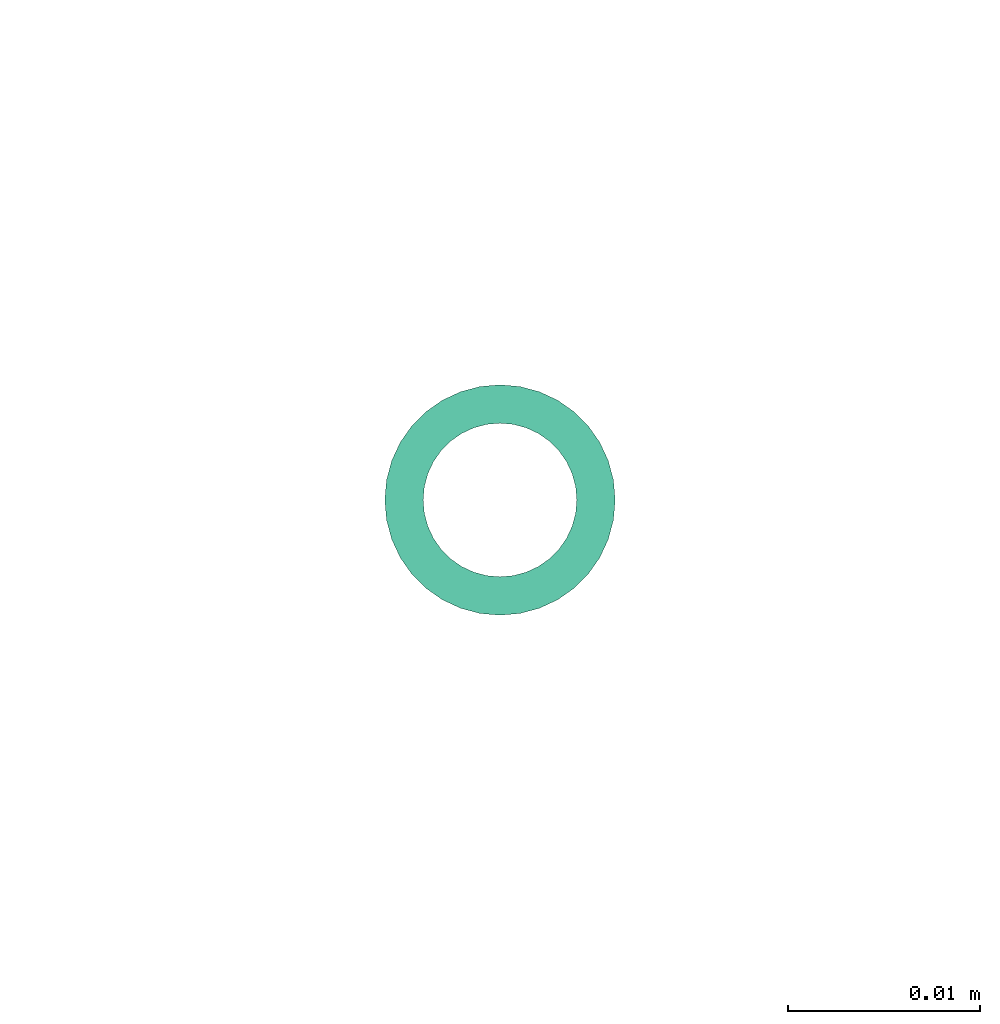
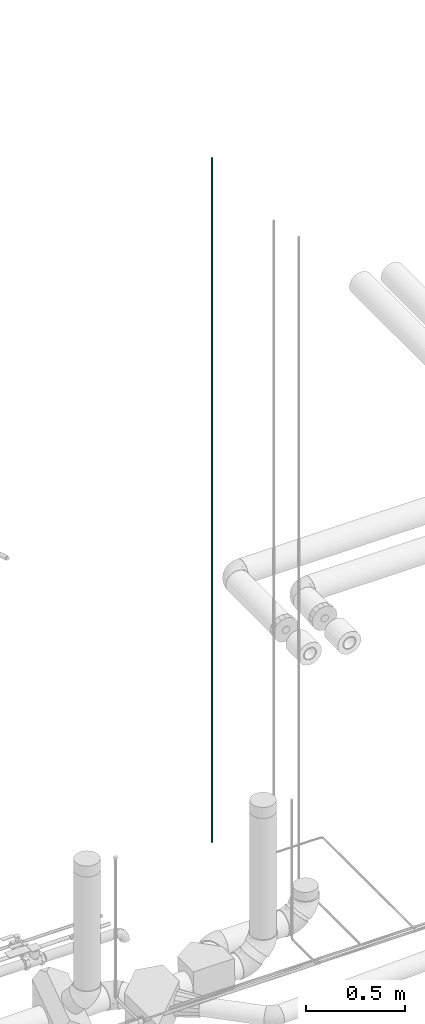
# One storey, part 108 of 156: 1 flow segment.
"""IFC2X3 building model written with IfcOpenShell, lengths in millimetres."""

import ifcopenshell
import ifcopenshell.guid

model = None  # the IFC model being written
_history = None  # IfcOwnerHistory: only IFC2X3 demands one
_inside = {}  # id of a spatial element -> (the spatial element, [elements in it])
_under = {}  # id of a project, library or spatial element -> (it, [spatial elements below it])
_declared = {}  # id of a project -> (the project, [libraries it declares])
_typed = {}  # id of a type object -> (the type object, [elements of that type])
_made_of = {}  # id of a material, layer set ... -> (it, [elements and type objects made of it])


def new_model(schema):
    """Start an empty IFC model of exactly this schema.

    Asked for "IFC4X3", IfcOpenShell would pick the latest addendum, in which some entities
    have other attributes; the version numbers below select the first issue.
    IFC2X3 requires an IfcOwnerHistory on every rooted entity: one is made here for all.
    """
    global model, _history
    if schema == "IFC4X3":
        model = ifcopenshell.file(schema_version=(4, 3, 0, 0))
    else:
        model = ifcopenshell.file(schema=schema)
    _inside.clear()
    _under.clear()
    _declared.clear()
    _typed.clear()
    _made_of.clear()
    _history = None
    if model.schema == "IFC2X3":
        org = make("IfcOrganization", Name="unknown")
        user = make(
            "IfcPersonAndOrganization",
            ThePerson=make("IfcPerson", FamilyName="unknown"),
            TheOrganization=org,
        )
        app = make(
            "IfcApplication",
            ApplicationDeveloper=org,
            Version="unknown",
            ApplicationFullName="unknown",
            ApplicationIdentifier="unknown",
        )
        _history = make(
            "IfcOwnerHistory",
            OwningUser=user,
            OwningApplication=app,
            ChangeAction="ADDED",
            CreationDate=0,
        )
    return model


def make(cls, **values):
    """One entity of the class cls with the attributes given. An attribute that is None is left unset."""
    return model.create_entity(
        cls, **{name: value for name, value in values.items() if value is not None}
    )


def entity(cls, *values):
    """Any entity or typed value of the class cls, its attributes in the order of the schema. None: left unset."""
    e = model.create_entity(cls)
    for i, value in enumerate(values):
        if value is not None:
            e[i] = value
    return e


def rooted(cls, **values):
    """An entity with a GlobalId (a new one), such as an element, a storey or a relation."""
    return make(cls, GlobalId=ifcopenshell.guid.new(), OwnerHistory=_history, **values)


def si_unit(unit_type, name, prefix=None):
    """IfcSIUnit, for example si_unit("LENGTHUNIT", "METRE", prefix="MILLI")."""
    return make("IfcSIUnit", UnitType=unit_type, Prefix=prefix, Name=name)


def converted_unit(unit_type, name, factor, base, dimensions=None, offset=None):
    """IfcConversionBasedUnit, such as the inch: factor (a typed value) times the base unit."""
    return make(
        "IfcConversionBasedUnit"
        if offset is None
        else "IfcConversionBasedUnitWithOffset",
        ConversionOffset=offset,
        Dimensions=None
        if dimensions is None
        else entity("IfcDimensionalExponents", *dimensions),
        UnitType=unit_type,
        Name=name,
        ConversionFactor=make(
            "IfcMeasureWithUnit", ValueComponent=factor, UnitComponent=base
        ),
    )


def derived_unit(unit_type, elements):
    """IfcDerivedUnit: a product of units, each with its exponent."""
    return make(
        "IfcDerivedUnit",
        Elements=[
            make("IfcDerivedUnitElement", Unit=unit, Exponent=power)
            for unit, power in elements
        ],
        UnitType=unit_type,
    )


def assignment(units):
    """IfcUnitAssignment: the units of a project."""
    return None if units is None else make("IfcUnitAssignment", Units=units)


def point(xyz):
    """IfcCartesianPoint."""
    return None if xyz is None else make("IfcCartesianPoint", Coordinates=xyz)


def direction(xyz):
    """IfcDirection."""
    return None if xyz is None else make("IfcDirection", DirectionRatios=xyz)


def frame(location, z_axis=None, x_axis=None):
    """IfcAxis2Placement3D, a coordinate frame: its origin and axes. An axis left out is left unset."""
    return make(
        "IfcAxis2Placement3D",
        Location=point(location),
        Axis=direction(z_axis),
        RefDirection=direction(x_axis),
    )


def place(relative_to, where):
    """IfcLocalPlacement: puts the frame where relative to a parent placement (None: the world)."""
    return make(
        "IfcLocalPlacement", PlacementRelTo=relative_to, RelativePlacement=where
    )


def context(
    kind, dimensions, precision=None, world=None, true_north=None, identifier=None
):
    """IfcGeometricRepresentationContext, for example the 3D "Model" context."""
    return make(
        "IfcGeometricRepresentationContext",
        ContextIdentifier=identifier,
        ContextType=kind,
        CoordinateSpaceDimension=dimensions,
        Precision=precision,
        WorldCoordinateSystem=world,
        TrueNorth=true_north,
    )


def subcontext(parent, identifier, kind, view, scale=None):
    """IfcGeometricRepresentationSubContext, for example "Body" below "Model"."""
    return make(
        "IfcGeometricRepresentationSubContext",
        ContextIdentifier=identifier,
        ContextType=kind,
        ParentContext=parent,
        TargetScale=scale,
        TargetView=view,
    )


def project(units=None, contexts=None):
    """IfcProject with its units and contexts."""
    return rooted(
        "IfcProject",
        Name="project",
        RepresentationContexts=contexts,
        UnitsInContext=assignment(units),
    )


def spatial(cls, under=None, at=None, **own):
    """A site, building, storey or space (cls), placed at a placement, below another one or the project."""
    s = rooted(cls, ObjectPlacement=at, **own)
    if under is not None:
        _under.setdefault(under.id(), (under, []))[1].append(s)
    return s


def faces_of(points, faces, orient=None, outer=None):
    """IfcFace entities. A face is a list of loops; a loop is a list of indices into points, from 0.

    orient and outer hold one flag for each loop. By default every Orientation is true, the
    first loop of a face is its IfcFaceOuterBound and the others are IfcFaceBound.
    """
    made = []
    for i, loops in enumerate(faces):
        bounds = []
        for j, loop in enumerate(loops):
            is_outer = j == 0 if outer is None else outer[i][j]
            bounds.append(
                make(
                    "IfcFaceOuterBound" if is_outer else "IfcFaceBound",
                    Bound=make("IfcPolyLoop", Polygon=[points[k] for k in loop]),
                    Orientation=True if orient is None else orient[i][j],
                )
            )
        made.append(make("IfcFace", Bounds=bounds))
    return made


def faceted_brep(points, faces, orient=None, outer=None, voids=None):
    """IfcFacetedBrep: a solid bounded by flat faces; with voids (closed shells), ...WithVoids."""
    shared = [point(p) for p in points]
    hull = make("IfcClosedShell", CfsFaces=faces_of(shared, faces, orient, outer))
    if voids is None:
        return make("IfcFacetedBrep", Outer=hull)
    return make(
        "IfcFacetedBrepWithVoids",
        Outer=hull,
        Voids=[
            make(cls, CfsFaces=faces_of(shared, fs, o, b)) for cls, fs, o, b in voids
        ],
    )


def shape(context_of_items, identifier, shape_type, items):
    """IfcShapeRepresentation: the items that make up one representation, for example the "Body"."""
    return make(
        "IfcShapeRepresentation",
        ContextOfItems=context_of_items,
        RepresentationIdentifier=identifier,
        RepresentationType=shape_type,
        Items=items,
    )


def made_of(thing, what):
    """Note that an element or type object is made of a material, layer set ...; save() writes the relation."""
    if what is not None:
        _made_of.setdefault(what.id(), (what, []))[1].append(thing)
    return thing


def type_object(cls, material=None, **own):
    """A type object (cls), such as IfcWallType, which elements share."""
    return made_of(rooted(cls, **own), material)


def element(
    cls,
    number,
    at=None,
    inside=None,
    cuts=None,
    type_object=None,
    material=None,
    context=None,
    identifier="Body",
    shape_type=None,
    held_by="IfcProductDefinitionShape",
    body=None,
    shapes=None,
    **own,
):
    """One element of the class cls, such as IfcWall. Its Tag is "e" and its number.

    at: its placement. inside: the storey or other place that contains it. cuts: it is an
    opening in that element (IfcRelVoidsElement). A single representation is given by context,
    identifier, shape_type and body (its items); several are given by shapes. held_by: the class
    of the entity that holds the representations. save() writes the other relations.
    """
    e = rooted(cls, Tag="e%d" % number, ObjectPlacement=at, **own)
    if body is not None:
        shapes = [shape(context, identifier, shape_type, body)]
    if shapes is not None:
        e.Representation = make(held_by, Representations=shapes)
    if inside is not None:
        _inside.setdefault(inside.id(), (inside, []))[1].append(e)
    if cuts is not None:
        rooted(
            "IfcRelVoidsElement", RelatingBuildingElement=cuts, RelatedOpeningElement=e
        )
    if type_object is not None:
        _typed.setdefault(type_object.id(), (type_object, []))[1].append(e)
    return made_of(e, material)


def aggregate(whole, parts):
    """IfcRelAggregates: a whole, such as a stair, and the parts it consists of."""
    return rooted("IfcRelAggregates", RelatingObject=whole, RelatedObjects=parts)


def save(model, path):
    """Write the relations noted so far, then the file.

    IfcRelAggregates (storeys below a building ...), IfcRelContainedInSpatialStructure (elements
    in a storey), IfcRelDefinesByType, IfcRelAssociatesMaterial and IfcRelDeclares: one each for
    every whole, place, type object, material and project.
    """
    for whole, parts in _under.values():
        aggregate(whole, parts)
    for where, things in _inside.values():
        rooted(
            "IfcRelContainedInSpatialStructure",
            RelatedElements=things,
            RelatingStructure=where,
        )
    for kind, things in _typed.values():
        rooted("IfcRelDefinesByType", RelatedObjects=things, RelatingType=kind)
    for what, things in _made_of.values():
        rooted("IfcRelAssociatesMaterial", RelatedObjects=things, RelatingMaterial=what)
    for by, libraries in _declared.values():
        rooted("IfcRelDeclares", RelatingContext=by, RelatedDefinitions=libraries)
    model.write(path)


model = new_model("IFC2X3")

# Units and contexts
model_context = context("Model", 3, precision=0.01, world=frame((0.0, 4.29681676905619e-09, 0.0)), true_north=direction((4.01073788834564e-13, 1.0)))
plan_context = context("Plan", 3, precision=0.01, world=frame((0.0, 4.29681676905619e-09, 0.0)), true_north=direction((4.01073788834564e-13, 1.0)))
body_context = subcontext(model_context, "Body", "Model", "MODEL_VIEW")
ifc_project = project(units=[converted_unit("PLANEANGLEUNIT", "DEGREE", entity("IfcPositiveLengthMeasure", 0.0174532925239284), si_unit("PLANEANGLEUNIT", "RADIAN"), dimensions=[0, 0, 0, 0, 0, 0, 0]), si_unit("AREAUNIT", "SQUARE_METRE"), si_unit("LENGTHUNIT", "METRE", prefix="MILLI"), si_unit("MASSUNIT", "GRAM", prefix="KILO"), si_unit("POWERUNIT", "WATT"), si_unit("PRESSUREUNIT", "PASCAL", prefix="KILO"), si_unit("FORCEUNIT", "NEWTON", prefix="KILO"), si_unit("ELECTRICVOLTAGEUNIT", "VOLT"), si_unit("ELECTRICCURRENTUNIT", "AMPERE"), si_unit("THERMODYNAMICTEMPERATUREUNIT", "DEGREE_CELSIUS"), si_unit("TIMEUNIT", "SECOND"), si_unit("VOLUMEUNIT", "CUBIC_METRE"), derived_unit("LINEARVELOCITYUNIT", [(si_unit("LENGTHUNIT", "METRE"), 1), (si_unit("TIMEUNIT", "SECOND"), -1)]), derived_unit("VOLUMETRICFLOWRATEUNIT", [(si_unit("VOLUMEUNIT", "CUBIC_METRE"), 1), (si_unit("TIMEUNIT", "SECOND"), -1)]), derived_unit("THERMALTRANSMITTANCEUNIT", [(si_unit("POWERUNIT", "WATT"), 1), (si_unit("THERMODYNAMICTEMPERATUREUNIT", "KELVIN"), -1), (si_unit("AREAUNIT", "SQUARE_METRE"), -1)]), derived_unit("SOUNDPRESSUREUNIT", [(si_unit("PRESSUREUNIT", "PASCAL"), 1)])], contexts=[model_context, plan_context])

# Site, building, storey
site_placement = place(None, frame((0.0, -4.29681676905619e-09, 0.0), z_axis=(0.0, 0.0, 1.0), x_axis=(1.0, 0.0, 0.0)))
site = spatial("IfcSite", under=ifc_project, at=site_placement, CompositionType="ELEMENT")
building_placement = place(site_placement, frame((0.0, 4.29681676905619e-09, 0.0), z_axis=(0.0, 0.0, 1.0), x_axis=(1.0, 0.0, 0.0)))
building = spatial("IfcBuilding", under=site, at=building_placement, Name="mc-building", CompositionType="ELEMENT")
storey_placement = place(building_placement, frame((0.0, 0.0, 205200.0), z_axis=(0.0, 0.0, 1.0), x_axis=(1.0, 0.0, 0.0)))
storey = spatial("IfcBuildingStorey", under=building, at=storey_placement, Name="Nivå D + 1,2 m", CompositionType="ELEMENT", Elevation=205200.0)

# Flow segment
pipe_segment_type = type_object("IfcPipeSegmentType", Name="Kobberrør", PredefinedType="RIGIDSEGMENT")
flow_segment_placement = place(storey_placement, frame((328985.66139, 463895.8486, 2912.0), z_axis=(1.0, 0.0, 0.0), x_axis=(0.0, 0.0, 1.0)))
element("IfcFlowSegment", 1, at=flow_segment_placement, inside=storey, type_object=pipe_segment_type, Name="Kobberrør", context=body_context, shape_type="Brep", body=[
    faceted_brep([(1088.0, 3.93923101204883, -0.694592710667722), (1088.0, 4.0, 0.0), (5309.6, 4.0, 0.0), (5309.6, 3.93923101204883, -0.694592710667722), (1088.0, 3.75877048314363, -1.36808057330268), (5309.6, 3.75877048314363, -1.36808057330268), (1088.0, 3.46410161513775, -2.0), (5309.6, 3.46410161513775, -2.0), (1088.0, 3.06417777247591, -2.57115043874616), (5309.6, 3.06417777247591, -2.57115043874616), (1088.0, 2.57115043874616, -3.06417777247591), (5309.6, 2.57115043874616, -3.06417777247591), (1088.0, 2.0, -3.46410161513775), (5309.6, 2.0, -3.46410161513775), (1088.0, 1.36808057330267, -3.75877048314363), (5309.6, 1.36808057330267, -3.75877048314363), (1088.0, 0.69459271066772, -3.93923101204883), (5309.6, 0.69459271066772, -3.93923101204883), (1088.0, -7.34788079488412e-16, -4.0), (5309.6, -7.34788079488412e-16, -4.0), (1088.0, -0.694592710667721, -3.93923101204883), (5309.6, -0.694592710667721, -3.93923101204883), (1088.0, -1.36808057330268, -3.75877048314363), (5309.6, -1.36808057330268, -3.75877048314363), (1088.0, -2.0, -3.46410161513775), (5309.6, -2.0, -3.46410161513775), (1088.0, -2.57115043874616, -3.06417777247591), (5309.6, -2.57115043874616, -3.06417777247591), (1088.0, -3.06417777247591, -2.57115043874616), (5309.6, -3.06417777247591, -2.57115043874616), (1088.0, -3.46410161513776, -2.0), (5309.6, -3.46410161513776, -2.0), (1088.0, -3.75877048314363, -1.36808057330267), (5309.6, -3.75877048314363, -1.36808057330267), (1088.0, -3.93923101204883, -0.69459271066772), (5309.6, -3.93923101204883, -0.69459271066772), (1088.0, -4.0, 4.89858719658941e-16), (5309.6, -4.0, 4.89858719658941e-16), (1088.0, -3.93923101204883, 0.694592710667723), (5309.6, -3.93923101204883, 0.694592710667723), (1088.0, -3.75877048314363, 1.36808057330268), (5309.6, -3.75877048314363, 1.36808057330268), (1088.0, -3.46410161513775, 2.0), (5309.6, -3.46410161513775, 2.0), (1088.0, -3.06417777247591, 2.57115043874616), (5309.6, -3.06417777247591, 2.57115043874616), (1088.0, -2.57115043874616, 3.06417777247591), (5309.6, -2.57115043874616, 3.06417777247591), (1088.0, -2.0, 3.46410161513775), (5309.6, -2.0, 3.46410161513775), (1088.0, -1.36808057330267, 3.75877048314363), (5309.6, -1.36808057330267, 3.75877048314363), (1088.0, -0.694592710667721, 3.93923101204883), (5309.6, -0.694592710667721, 3.93923101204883), (1088.0, 2.44929359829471e-16, 4.0), (5309.6, 2.44929359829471e-16, 4.0), (1088.0, 0.694592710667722, 3.93923101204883), (5309.6, 0.694592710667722, 3.93923101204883), (1088.0, 1.36808057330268, 3.75877048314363), (5309.6, 1.36808057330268, 3.75877048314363), (1088.0, 2.0, 3.46410161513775), (5309.6, 2.0, 3.46410161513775), (1088.0, 2.57115043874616, 3.06417777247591), (5309.6, 2.57115043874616, 3.06417777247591), (1088.0, 3.06417777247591, 2.57115043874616), (5309.6, 3.06417777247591, 2.57115043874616), (1088.0, 3.46410161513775, 2.0), (5309.6, 3.46410161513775, 2.0), (1088.0, 3.75877048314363, 1.36808057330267), (5309.6, 3.75877048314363, 1.36808057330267), (1088.0, 3.93923101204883, 0.694592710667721), (5309.6, 3.93923101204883, 0.694592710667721), (1088.0, 6.0, 0.0), (1088.0, 5.90884651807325, -1.04188906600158), (5309.6, 5.90884651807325, -1.04188906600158), (5309.6, 6.0, 0.0), (1088.0, 5.90884651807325, 1.04188906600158), (5309.6, 5.90884651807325, 1.04188906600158), (1088.0, 5.63815572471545, 2.05212085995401), (5309.6, 5.63815572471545, 2.05212085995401), (1088.0, 5.19615242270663, 3.0), (5309.6, 5.19615242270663, 3.0), (1088.0, 4.59626665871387, 3.85672565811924), (5309.6, 4.59626665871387, 3.85672565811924), (1088.0, 3.85672565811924, 4.59626665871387), (5309.6, 3.85672565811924, 4.59626665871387), (1088.0, 3.0, 5.19615242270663), (5309.6, 3.0, 5.19615242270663), (1088.0, 2.05212085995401, 5.63815572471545), (5309.6, 2.05212085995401, 5.63815572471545), (1088.0, 1.04188906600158, 5.90884651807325), (5309.6, 1.04188906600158, 5.90884651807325), (1088.0, 3.67394039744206e-16, 6.0), (5309.6, 3.67394039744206e-16, 6.0), (1088.0, -1.04188906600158, 5.90884651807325), (5309.6, -1.04188906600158, 5.90884651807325), (1088.0, -2.05212085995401, 5.63815572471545), (5309.6, -2.05212085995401, 5.63815572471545), (1088.0, -3.0, 5.19615242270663), (5309.6, -3.0, 5.19615242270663), (1088.0, -3.85672565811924, 4.59626665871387), (5309.6, -3.85672565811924, 4.59626665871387), (1088.0, -4.59626665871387, 3.85672565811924), (5309.6, -4.59626665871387, 3.85672565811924), (1088.0, -5.19615242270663, 3.0), (5309.6, -5.19615242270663, 3.0), (1088.0, -5.63815572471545, 2.05212085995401), (5309.6, -5.63815572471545, 2.05212085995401), (1088.0, -5.90884651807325, 1.04188906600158), (5309.6, -5.90884651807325, 1.04188906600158), (1088.0, -6.0, 7.34788079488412e-16), (5309.6, -6.0, 7.34788079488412e-16), (1088.0, -5.90884651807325, -1.04188906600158), (5309.6, -5.90884651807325, -1.04188906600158), (1088.0, -5.63815572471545, -2.05212085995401), (5309.6, -5.63815572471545, -2.05212085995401), (1088.0, -5.19615242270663, -3.0), (5309.6, -5.19615242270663, -3.0), (1088.0, -4.59626665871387, -3.85672565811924), (5309.6, -4.59626665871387, -3.85672565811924), (1088.0, -3.85672565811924, -4.59626665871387), (5309.6, -3.85672565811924, -4.59626665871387), (1088.0, -3.0, -5.19615242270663), (5309.6, -3.0, -5.19615242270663), (1088.0, -2.05212085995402, -5.63815572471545), (5309.6, -2.05212085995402, -5.63815572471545), (1088.0, -1.04188906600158, -5.90884651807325), (5309.6, -1.04188906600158, -5.90884651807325), (1088.0, -1.10218211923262e-15, -6.0), (5309.6, -1.10218211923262e-15, -6.0), (1088.0, 1.04188906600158, -5.90884651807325), (5309.6, 1.04188906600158, -5.90884651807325), (1088.0, 2.05212085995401, -5.63815572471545), (5309.6, 2.05212085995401, -5.63815572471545), (1088.0, 3.0, -5.19615242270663), (5309.6, 3.0, -5.19615242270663), (1088.0, 3.85672565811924, -4.59626665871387), (5309.6, 3.85672565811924, -4.59626665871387), (1088.0, 4.59626665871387, -3.85672565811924), (5309.6, 4.59626665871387, -3.85672565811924), (1088.0, 5.19615242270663, -3.0), (5309.6, 5.19615242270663, -3.0), (1088.0, 5.63815572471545, -2.05212085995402), (5309.6, 5.63815572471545, -2.05212085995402)], [[[0, 1, 2, 3]], [[4, 0, 3, 5]], [[6, 4, 5, 7]], [[8, 6, 7, 9]], [[10, 8, 9, 11]], [[12, 10, 11, 13]], [[14, 12, 13, 15]], [[16, 14, 15, 17]], [[18, 16, 17, 19]], [[20, 18, 19, 21]], [[22, 20, 21, 23]], [[24, 22, 23, 25]], [[26, 24, 25, 27]], [[28, 26, 27, 29]], [[30, 28, 29, 31]], [[32, 30, 31, 33]], [[34, 32, 33, 35]], [[36, 34, 35, 37]], [[38, 36, 37, 39]], [[40, 38, 39, 41]], [[42, 40, 41, 43]], [[44, 42, 43, 45]], [[46, 44, 45, 47]], [[48, 46, 47, 49]], [[50, 48, 49, 51]], [[52, 50, 51, 53]], [[54, 52, 53, 55]], [[56, 54, 55, 57]], [[58, 56, 57, 59]], [[60, 58, 59, 61]], [[62, 60, 61, 63]], [[64, 62, 63, 65]], [[66, 64, 65, 67]], [[68, 66, 67, 69]], [[70, 68, 69, 71]], [[1, 70, 71, 2]], [[72, 73, 74, 75]], [[76, 72, 75, 77]], [[78, 76, 77, 79]], [[80, 78, 79, 81]], [[82, 80, 81, 83]], [[84, 82, 83, 85]], [[86, 84, 85, 87]], [[88, 86, 87, 89]], [[90, 88, 89, 91]], [[92, 90, 91, 93]], [[94, 92, 93, 95]], [[96, 94, 95, 97]], [[98, 96, 97, 99]], [[100, 98, 99, 101]], [[102, 100, 101, 103]], [[104, 102, 103, 105]], [[106, 104, 105, 107]], [[108, 106, 107, 109]], [[110, 108, 109, 111]], [[112, 110, 111, 113]], [[114, 112, 113, 115]], [[116, 114, 115, 117]], [[118, 116, 117, 119]], [[120, 118, 119, 121]], [[122, 120, 121, 123]], [[124, 122, 123, 125]], [[126, 124, 125, 127]], [[128, 126, 127, 129]], [[130, 128, 129, 131]], [[132, 130, 131, 133]], [[134, 132, 133, 135]], [[136, 134, 135, 137]], [[138, 136, 137, 139]], [[140, 138, 139, 141]], [[142, 140, 141, 143]], [[73, 142, 143, 74]], [[75, 74, 143, 141, 139, 137, 135, 133, 131, 129, 127, 125, 123, 121, 119, 117, 115, 113, 111, 109, 107, 105, 103, 101, 99, 97, 95, 93, 91, 89, 87, 85, 83, 81, 79, 77], [2, 71, 69, 67, 65, 63, 61, 59, 57, 55, 53, 51, 49, 47, 45, 43, 41, 39, 37, 35, 33, 31, 29, 27, 25, 23, 21, 19, 17, 15, 13, 11, 9, 7, 5, 3]], [[76, 78, 80, 82, 84, 86, 88, 90, 92, 94, 96, 98, 100, 102, 104, 106, 108, 110, 112, 114, 116, 118, 120, 122, 124, 126, 128, 130, 132, 134, 136, 138, 140, 142, 73, 72], [4, 6, 8, 10, 12, 14, 16, 18, 20, 22, 24, 26, 28, 30, 32, 34, 36, 38, 40, 42, 44, 46, 48, 50, 52, 54, 56, 58, 60, 62, 64, 66, 68, 70, 1, 0]]], orient=[[False], [False], [False], [False], [False], [False], [False], [False], [False], [False], [False], [False], [False], [False], [False], [False], [False], [False], [False], [False], [False], [False], [False], [False], [False], [False], [False], [False], [False], [False], [False], [False], [False], [False], [False], [False], [False], [False], [False], [False], [False], [False], [False], [False], [False], [False], [False], [False], [False], [False], [False], [False], [False], [False], [False], [False], [False], [False], [False], [False], [False], [False], [False], [False], [False], [False], [False], [False], [False], [False], [False], [False], [False, False], [False, False]]),
])

save(model, "model.ifc")
